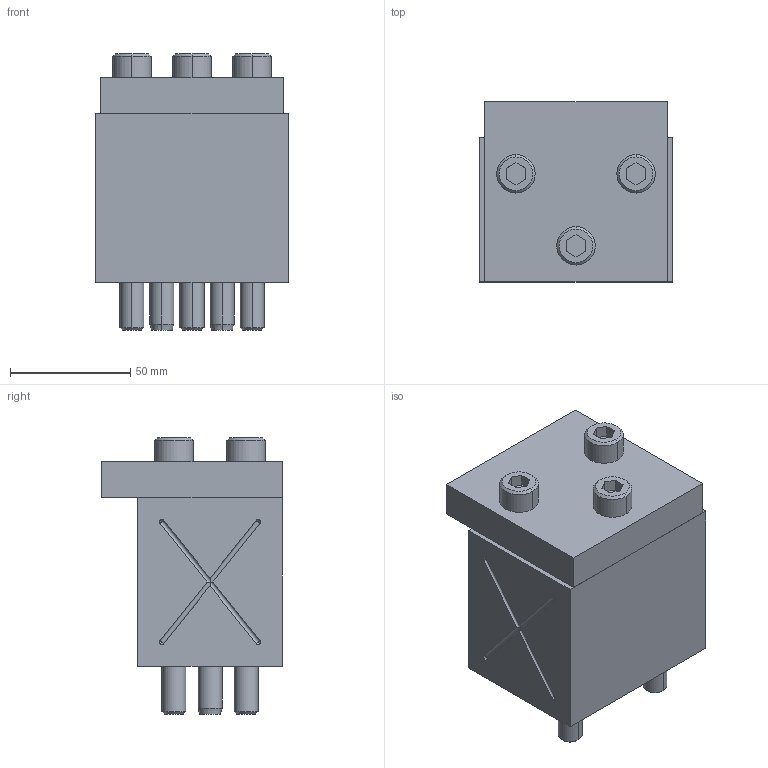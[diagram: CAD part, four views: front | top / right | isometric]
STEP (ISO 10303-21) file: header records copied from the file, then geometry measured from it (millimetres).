
FILE_DESCRIPTION((''),'2;1');
FILE_NAME('','2010-09-29T17:39:37+09:00',('misumi'),(''),'M/STEP i/f 1R2-14','CADmeister v5.1','');
FILE_SCHEMA(('AUTOMOTIVE_DESIGN'));
Length unit declared in the file: millimetre
Products named in the file (1): KEPNZ80-70-15
Bounding box: 80 x 75 x 115 mm (x, y, z)
Volume: 393120.9 mm3; surface area: 80083 mm2
Topology: 10 solids, 10 shells, 206 faces, 472 edges, 299 vertices
Faces by surface type: plane 86, cylinder 76, cone 32, revolution 12
Entity records: 8695 total; most frequent: CARTESIAN_POINT 1074, DIRECTION 1062, ORIENTED_EDGE 920, COLOUR_RGB 628, CURVE_STYLE 547, PRESENTATION_STYLE_ASSIGNMENT 537, OVER_RIDING_STYLED_ITEM 527, EDGE_CURVE 460
